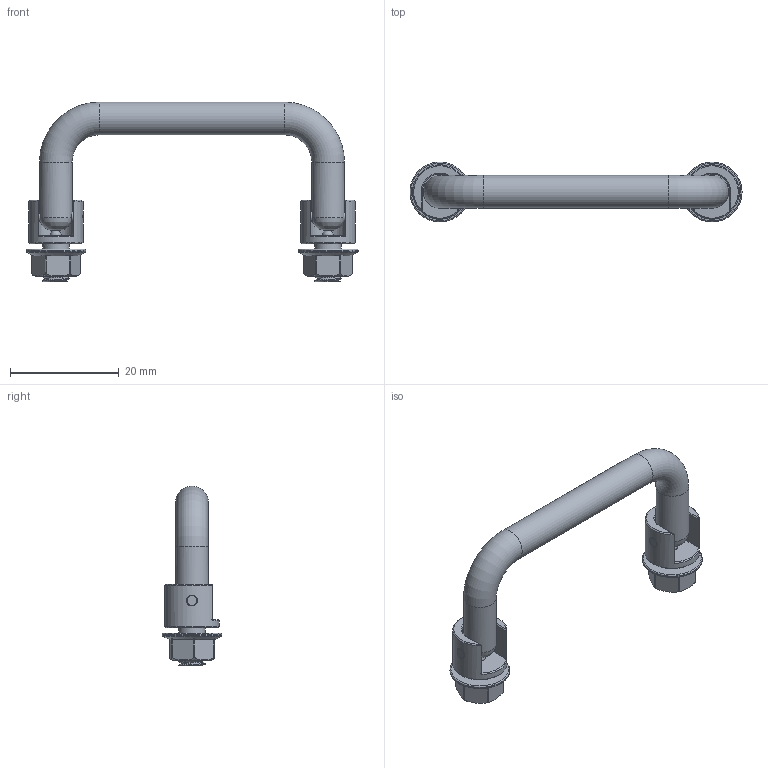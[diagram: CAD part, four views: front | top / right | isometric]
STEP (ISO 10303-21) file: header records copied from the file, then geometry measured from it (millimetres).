
FILE_DESCRIPTION(/* description */ (''),/* implementation_level */ '2;1');
FILE_NAME(/* name */ '\\SYNOLOGYNAS\web\db2\A-GDS6-50\\X2\B3C4BA74C218C815\X0\\A-GDS6-50.stp',/* time_stamp */ '2023-12-07T11:00:19+09:00',/* author */ ('user'),/* organization */ (''),/* preprocessor_version */ 'ST-DEVELOPER v15.6',/* originating_system */ 'Autodesk Inventor 2015',/* authorisation */ '');
FILE_SCHEMA (('AUTOMOTIVE_DESIGN { 1 0 10303 214 3 1 1 }'));
Length unit declared in the file: millimetre
Products named in the file (7): A-GDS6-50_P; A-GDS6-50_B-1; A-GDS6-50_B-2; A-GDS6-50_B-3; A-GDS6-50_B; A-GDS6-50_N; A-GDS6-50
Bounding box: 60.98 x 11 x 33 mm (x, y, z)
Volume: 3596.8 mm3; surface area: 3946.7 mm2
Topology: 9 solids, 9 shells, 201 faces, 739 edges, 552 vertices
Faces by surface type: cylinder 93, plane 64, bspline 20, torus 10, cone 10, sphere 4
Full cylindrical faces by diameter (mm): 1.4 x2, 1.8 x4, 1.933 x12, 2 x4, 2.075 x24, 4.901 x14, 6 x3, 10 x2, 11 x2
Entity records: 14866 total; most frequent: CARTESIAN_POINT 12343, ORIENTED_EDGE 566, DIRECTION 364, EDGE_CURVE 283, VERTEX_POINT 232, B_SPLINE_CURVE_WITH_KNOTS 168, AXIS2_PLACEMENT_3D 160, EDGE_LOOP 125
